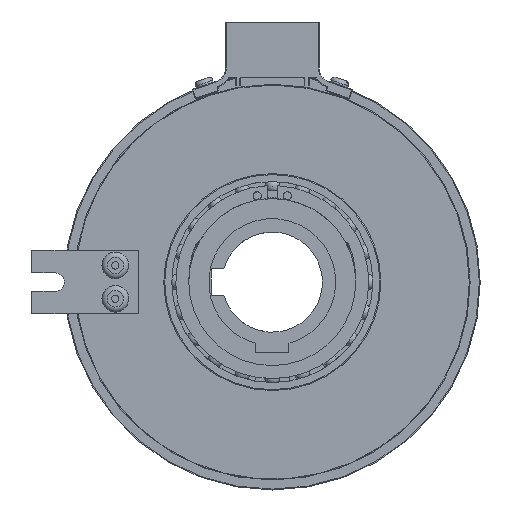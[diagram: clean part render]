
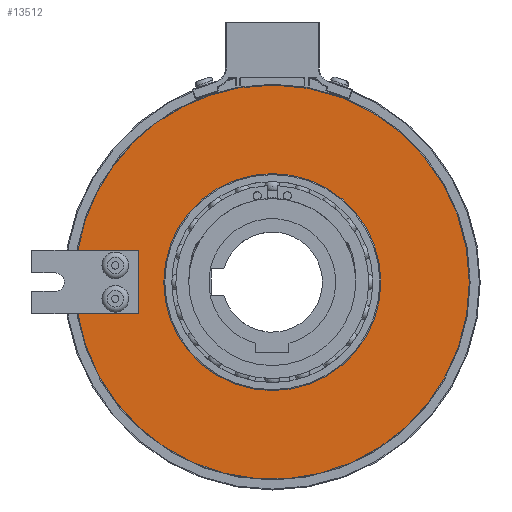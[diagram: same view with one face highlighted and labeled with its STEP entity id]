
A CAD part, left-side view. The second image highlights one B-rep face of the part: STEP entity #13512.
In plain terms, the highlighted planar face has unit normal (-1, 0, 0).
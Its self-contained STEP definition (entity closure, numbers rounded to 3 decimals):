
#728=FACE_BOUND('',#2533,.T.);
#1103=PLANE('',#15109);
#1711=FACE_OUTER_BOUND('',#2532,.T.);
#2532=EDGE_LOOP('',(#11783,#11784,#11785,#11786,#11787,#11788));
#2533=EDGE_LOOP('',(#11789,#11790));
#3217=LINE('',#22986,#3874);
#3234=LINE('',#23023,#3891);
#3237=LINE('',#23027,#3894);
#3874=VECTOR('',#18414,10.);
#3891=VECTOR('',#18447,10.);
#3894=VECTOR('',#18452,10.);
#4334=CIRCLE('',#14219,59.);
#4337=CIRCLE('',#14222,59.);
#4865=CIRCLE('',#15084,32.5);
#4866=CIRCLE('',#15085,32.5);
#4879=CIRCLE('',#15108,59.);
#5552=VERTEX_POINT('',#21467);
#5557=VERTEX_POINT('',#21477);
#5558=VERTEX_POINT('',#21479);
#5560=VERTEX_POINT('',#21483);
#5972=VERTEX_POINT('',#22985);
#5984=VERTEX_POINT('',#23021);
#6211=VERTEX_POINT('',#25745);
#6212=VERTEX_POINT('',#25746);
#7103=EDGE_CURVE('',#5558,#5557,#4334,.T.);
#7106=EDGE_CURVE('',#5552,#5560,#4337,.T.);
#7788=EDGE_CURVE('',#5972,#5558,#3217,.T.);
#7807=EDGE_CURVE('',#5560,#5984,#3234,.T.);
#7810=EDGE_CURVE('',#5984,#5972,#3237,.T.);
#8105=EDGE_CURVE('',#6211,#6212,#4865,.T.);
#8107=EDGE_CURVE('',#6212,#6211,#4866,.T.);
#8126=EDGE_CURVE('',#5557,#5552,#4879,.T.);
#11783=ORIENTED_EDGE('',*,*,#7788,.T.);
#11784=ORIENTED_EDGE('',*,*,#7103,.T.);
#11785=ORIENTED_EDGE('',*,*,#8126,.T.);
#11786=ORIENTED_EDGE('',*,*,#7106,.T.);
#11787=ORIENTED_EDGE('',*,*,#7807,.T.);
#11788=ORIENTED_EDGE('',*,*,#7810,.T.);
#11789=ORIENTED_EDGE('',*,*,#8105,.F.);
#11790=ORIENTED_EDGE('',*,*,#8107,.F.);
#13512=ADVANCED_FACE('',(#1711,#728),#1103,.T.);
#14219=AXIS2_PLACEMENT_3D('',#21480,#16833,#16834);
#14222=AXIS2_PLACEMENT_3D('',#21485,#16839,#16840);
#15084=AXIS2_PLACEMENT_3D('',#25747,#18855,#18856);
#15085=AXIS2_PLACEMENT_3D('',#25749,#18858,#18859);
#15108=AXIS2_PLACEMENT_3D('',#25822,#18908,#18909);
#15109=AXIS2_PLACEMENT_3D('',#25824,#18911,#18912);
#16833=DIRECTION('center_axis',(-1.,0.,0.));
#16834=DIRECTION('ref_axis',(0.,1.,0.));
#16839=DIRECTION('center_axis',(-1.,0.,0.));
#16840=DIRECTION('ref_axis',(0.,1.,0.));
#18414=DIRECTION('',(0.,1.,0.));
#18447=DIRECTION('',(0.,-1.,0.));
#18452=DIRECTION('',(0.,0.,-1.));
#18855=DIRECTION('center_axis',(-1.,0.,0.));
#18856=DIRECTION('ref_axis',(0.,1.,0.));
#18858=DIRECTION('center_axis',(-1.,0.,0.));
#18859=DIRECTION('ref_axis',(0.,1.,0.));
#18908=DIRECTION('center_axis',(-1.,0.,0.));
#18909=DIRECTION('ref_axis',(0.,1.,0.));
#18911=DIRECTION('center_axis',(-1.,0.,0.));
#18912=DIRECTION('ref_axis',(0.,0.,
1.));
#21467=CARTESIAN_POINT('',(-17.95,9.667,58.203));
#21477=CARTESIAN_POINT('',(-17.95,-59.,0.));
#21479=CARTESIAN_POINT('',(-17.95,58.23,-9.5));
#21480=CARTESIAN_POINT('Origin',(-17.95,0.,0.));
#21483=CARTESIAN_POINT('',(-17.95,58.23,9.5));
#21485=CARTESIAN_POINT('Origin',(-17.95,0.,0.));
#22985=CARTESIAN_POINT('',(-17.95,40.,-9.5));
#22986=CARTESIAN_POINT('',(-17.95,42.875,-9.5));
#23021=CARTESIAN_POINT('',(-17.95,40.,9.5));
#23023=CARTESIAN_POINT('',(-17.95,58.875,9.5));
#23027=CARTESIAN_POINT('',(-17.95,40.,4.75));
#25745=CARTESIAN_POINT('',(-17.95,32.5,0.));
#25746=CARTESIAN_POINT('',(-17.95,-32.5,0.));
#25747=CARTESIAN_POINT('Origin',(-17.95,0.,0.));
#25749=CARTESIAN_POINT('Origin',(-17.95,0.,0.));
#25822=CARTESIAN_POINT('Origin',(-17.95,0.,0.));
#25824=CARTESIAN_POINT('Origin',(-17.95,45.75,0.));
